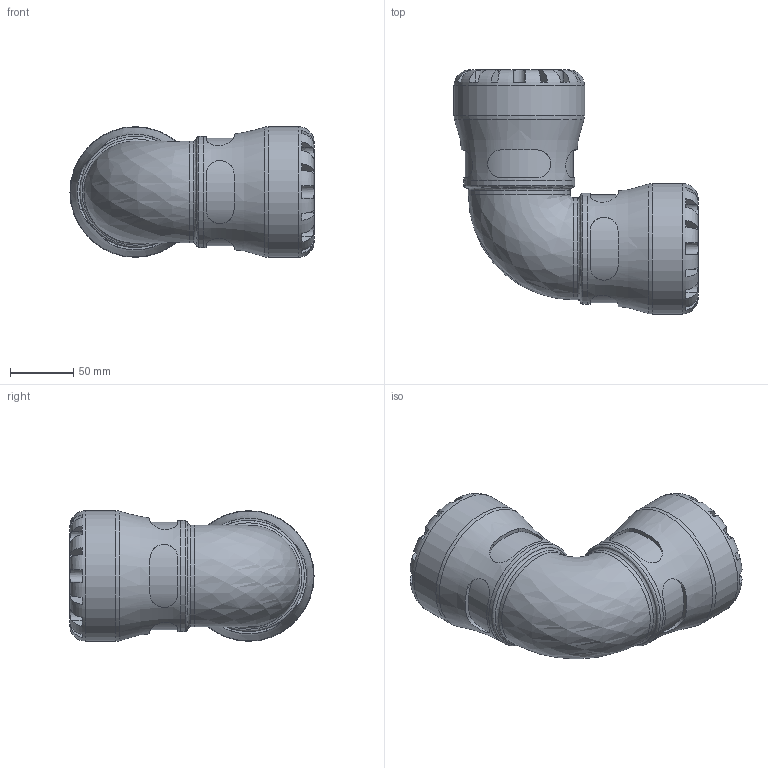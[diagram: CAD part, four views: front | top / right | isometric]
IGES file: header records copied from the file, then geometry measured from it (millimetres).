
Global section: file name: 100500063_190400063.ipt; native system: Autodesk Inventor 2015; preprocessor: unknown; author: KIM; date: 20170122.114437; units: millimetre
Bounding box: 192.5 x 192.5 x 103 mm (x, y, z)
Volume: 966196.7 mm3; surface area: 143314.5 mm2
Topology: 1 solids, 1 shells, 196 faces, 513 edges, 327 vertices
Faces by surface type: plane 116, revolution 50, cylinder 30
Full cylindrical faces by diameter (mm): 80.34 x2, 87.55 x2, 103 x2
